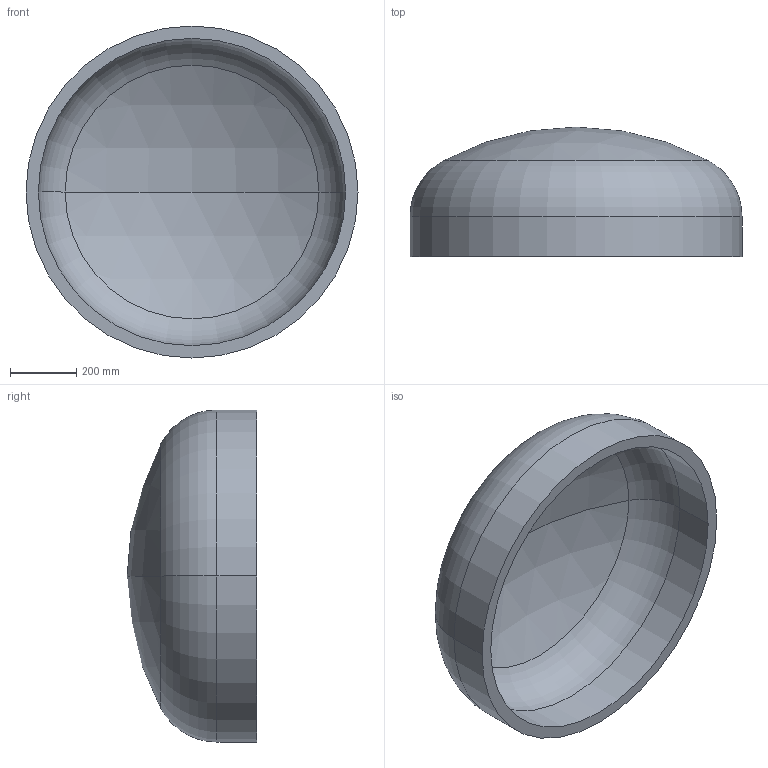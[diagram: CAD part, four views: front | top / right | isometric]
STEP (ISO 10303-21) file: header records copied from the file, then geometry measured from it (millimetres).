
FILE_DESCRIPTION (( 'STEP AP203' ), '1' );
FILE_NAME ('DIN 28013 Korbbogenform_-_Boden DIN 28013 - 1000 x 120 - I - s=37.step', '2016-07-01T08:48:01', ( '' ), ( '' ), 'SwSTEP 2.0', 'SolidWorks 2013', '' );
FILE_SCHEMA (( 'CONFIG_CONTROL_DESIGN' ));
Length unit declared in the file: millimetre
Products named in the file (1): DIN 28013 Korbbogenform_-_Boden DIN 28013 - 1000 x 120 - I - s=37
Bounding box: 1000 x 390.29 x 1000 mm (x, y, z)
Volume: 51841743.7 mm3; surface area: 2917061.1 mm2
Topology: 1 solids, 1 shells, 13 faces, 24 edges, 14 vertices
Faces by surface type: torus 4, cylinder 4, sphere 4, plane 1
Entity records: 407 total; most frequent: DIRECTION 72, CARTESIAN_POINT 52, ORIENTED_EDGE 48, AXIS2_PLACEMENT_3D 34, EDGE_CURVE 24, CIRCLE 20, VERTEX_POINT 14, EDGE_LOOP 14
